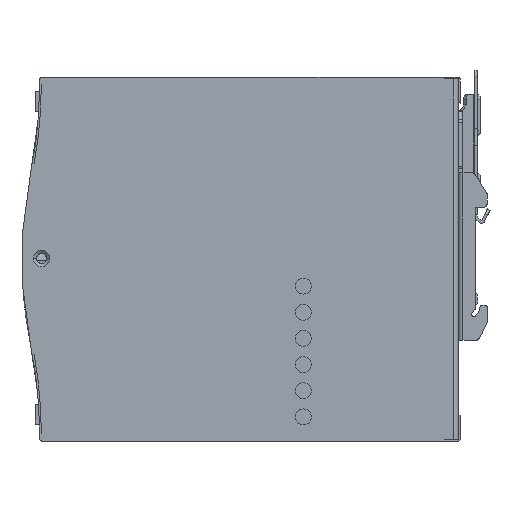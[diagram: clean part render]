
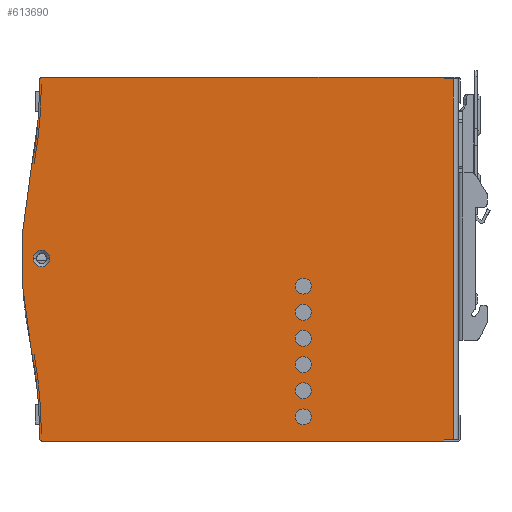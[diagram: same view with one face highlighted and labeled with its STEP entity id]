
A CAD part, front view. The second image highlights one B-rep face of the part: STEP entity #613690.
In plain terms, the highlighted planar face has unit normal (0, -1, 0).
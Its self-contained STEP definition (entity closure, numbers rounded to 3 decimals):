
#280010=CARTESIAN_POINT('',(-22.289,13.236,
-50.6));
#280020=VERTEX_POINT('',#280010);
#280050=CARTESIAN_POINT('',(115.92,13.236,-50.6
));
#280060=DIRECTION('',(-1.,0.,0.));
#280070=VECTOR('',#280060,1.);
#280080=LINE('',#280050,#280070);
#280090=CARTESIAN_POINT('',(115.92,13.236,
-50.6));
#280100=VERTEX_POINT('',#280090);
#280110=EDGE_CURVE('',#280100,#280020,#280080,.T.);
#610900=CARTESIAN_POINT('',(115.92,13.236,-50.));
#610910=DIRECTION('',(1.,0.,0.));
#610920=VECTOR('',#610910,1.);
#610930=LINE('',#610900,#610920);
#610940=CARTESIAN_POINT('',(115.92,13.236,-50.));
#610950=VERTEX_POINT('',#610940);
#610960=CARTESIAN_POINT('',(119.053,13.236,-50.));
#610970=VERTEX_POINT('',#610960);
#610980=EDGE_CURVE('',#610950,#610970,#610930,.T.);
#611640=CARTESIAN_POINT('',(115.92,13.236,-50.6
));
#611650=DIRECTION('',(0.,0.,1.));
#611660=VECTOR('',#611650,1.);
#611670=LINE('',#611640,#611660);
#611680=EDGE_CURVE('',#280100,#610950,#611670,.T.);
#611730=CARTESIAN_POINT('',(-13.667,13.236,0.));
#611740=DIRECTION('',(0.,-1.,0.));
#611750=DIRECTION('',(0.,0.,-1.));
#611760=AXIS2_PLACEMENT_3D('',#611730,#611740,#611750);
#611770=PLANE('',#611760);
#611780=CARTESIAN_POINT('',(115.92,13.236,74.));
#611790=DIRECTION('',(1.,0.,0.));
#611800=VECTOR('',#611790,1.);
#611810=LINE('',#611780,#611800);
#611820=CARTESIAN_POINT('',(115.92,13.236,74.));
#611830=VERTEX_POINT('',#611820);
#611840=CARTESIAN_POINT('',(119.053,13.236,74.));
#611850=VERTEX_POINT('',#611840);
#611860=EDGE_CURVE('',#611830,#611850,#611810,.T.);
#611870=ORIENTED_EDGE('',*,*,#611860,.F.);
#611880=CARTESIAN_POINT('',(119.053,13.236,74.));
#611890=DIRECTION('',(0.,0.,-1.));
#611900=VECTOR('',#611890,1.);
#611910=LINE('',#611880,#611900);
#611920=EDGE_CURVE('',#611850,#610970,#611910,.T.);
#611930=ORIENTED_EDGE('',*,*,#611920,.F.);
#611940=ORIENTED_EDGE('',*,*,#610980,.T.);
#611950=ORIENTED_EDGE('',*,*,#611680,.T.);
#611960=ORIENTED_EDGE('',*,*,#280110,.F.);
#611970=CARTESIAN_POINT('',(-23.289,13.236,
-49.595));
#611980=CARTESIAN_POINT('',(-23.291,13.236,-49.737
));
#611990=CARTESIAN_POINT('',(-23.234,13.236,
-49.995));
#612000=CARTESIAN_POINT('',(-23.015,13.236,
-50.325));
#612010=CARTESIAN_POINT('',(-22.683,13.236,
-50.546));
#612020=CARTESIAN_POINT('',(-22.428,13.236,
-50.6));
#612030=CARTESIAN_POINT('',(-22.289,13.236,
-50.6));
#612040=B_SPLINE_CURVE_WITH_KNOTS('',3,(#611970,#611980,#611990,#612000,
#612010,#612020,#612030),.UNSPECIFIED.,.F.,.F.,(4,1,1,1,4),(0.,0.25,0.5,
0.75,1.),.UNSPECIFIED.);
#612050=CARTESIAN_POINT('',(-23.289,13.236,
-49.593));
#612060=VERTEX_POINT('',#612050);
#612070=EDGE_CURVE('',#612060,#280020,#612040,.T.);
#612080=ORIENTED_EDGE('',*,*,#612070,.T.);
#612090=CARTESIAN_POINT('',(-173.696,13.236,
-48.111));
#612100=DIRECTION('',(-0.,1.,0.));
#612110=DIRECTION('',(0.98,0.,0.199));
#612120=AXIS2_PLACEMENT_3D('',#612090,#612100,#612110);
#612130=CIRCLE('',#612120,150.414);
#612140=CARTESIAN_POINT('',(-26.304,13.236,
-18.11));
#612150=VERTEX_POINT('',#612140);
#612160=EDGE_CURVE('',#612150,#612060,#612130,.T.);
#612170=ORIENTED_EDGE('',*,*,#612160,.T.);
#612180=CARTESIAN_POINT('',(121.153,13.236,
12.));
#612190=DIRECTION('',(0.,-1.,0.));
#612200=DIRECTION('',(-0.98,0.,0.2));
#612210=AXIS2_PLACEMENT_3D('',#612180,#612190,#612200);
#612220=CIRCLE('',#612210,150.5);
#612230=CARTESIAN_POINT('',(-26.304,13.236,42.11
));
#612240=VERTEX_POINT('',#612230);
#612250=EDGE_CURVE('',#612240,#612150,#612220,.T.);
#612260=ORIENTED_EDGE('',*,*,#612250,.T.);
#612270=CARTESIAN_POINT('',(-173.696,13.236,
72.111));
#612280=DIRECTION('',(-0.,1.,0.));
#612290=DIRECTION('',(1.,0.,0.01));
#612300=AXIS2_PLACEMENT_3D('',#612270,#612280,#612290);
#612310=CIRCLE('',#612300,150.414);
#612320=CARTESIAN_POINT('',(-23.289,13.236,73.593
));
#612330=VERTEX_POINT('',#612320);
#612340=EDGE_CURVE('',#612330,#612240,#612310,.T.);
#612350=ORIENTED_EDGE('',*,*,#612340,.T.);
#612360=CARTESIAN_POINT('',(-22.294,13.236,74.6
));
#612370=CARTESIAN_POINT('',(-22.433,13.236,74.6)
);
#612380=CARTESIAN_POINT('',(-22.688,13.236,74.543
));
#612390=CARTESIAN_POINT('',(-23.019,13.236,74.322
));
#612400=CARTESIAN_POINT('',(-23.237,13.236,73.989
));
#612410=CARTESIAN_POINT('',(-23.29,13.236,73.735
));
#612420=CARTESIAN_POINT('',(-23.289,13.236,73.596
));
#612430=B_SPLINE_CURVE_WITH_KNOTS('',3,(#612360,#612370,#612380,#612390,
#612400,#612410,#612420),.UNSPECIFIED.,.F.,.F.,(4,1,1,1,4),(0.,0.25,0.5,
0.75,1.),.UNSPECIFIED.);
#612440=CARTESIAN_POINT('',(-22.292,13.236,74.6
));
#612450=VERTEX_POINT('',#612440);
#612460=EDGE_CURVE('',#612450,#612330,#612430,.T.);
#612470=ORIENTED_EDGE('',*,*,#612460,.T.);
#612480=CARTESIAN_POINT('',(-22.289,13.236,74.6
));
#612490=DIRECTION('',(1.,0.,0.));
#612500=VECTOR('',#612490,1.);
#612510=LINE('',#612480,#612500);
#612520=CARTESIAN_POINT('',(115.92,13.236,
74.6));
#612530=VERTEX_POINT('',#612520);
#612540=EDGE_CURVE('',#612450,#612530,#612510,.T.);
#612550=ORIENTED_EDGE('',*,*,#612540,.F.);
#612560=CARTESIAN_POINT('',(115.92,13.236,74.));
#612570=DIRECTION('',(0.,0.,1.));
#612580=VECTOR('',#612570,1.);
#612590=LINE('',#612560,#612580);
#612600=EDGE_CURVE('',#611830,#612530,#612590,.T.);
#612610=ORIENTED_EDGE('',*,*,#612600,.T.);
#612620=EDGE_LOOP('',(#612610,#612550,#612470,#612350,#612260,#612170,
#612080,#611960,#611950,#611940,#611930,#611870));
#612630=FACE_OUTER_BOUND('',#612620,.T.);
#612640=CARTESIAN_POINT('',(-22.597,13.236,12.25)
);
#612650=DIRECTION('',(0.,1.,0.));
#612660=DIRECTION('',(-1.,0.,0.));
#612670=AXIS2_PLACEMENT_3D('',#612640,#612650,#612660);
#612680=CIRCLE('',#612670,2.85);
#612690=CARTESIAN_POINT('',(-25.447,13.236,12.25
));
#612700=VERTEX_POINT('',#612690);
#612710=CARTESIAN_POINT('',(-19.747,13.236,12.25
));
#612720=VERTEX_POINT('',#612710);
#612730=EDGE_CURVE('',#612700,#612720,#612680,.T.);
#612740=ORIENTED_EDGE('',*,*,#612730,.T.);
#612750=EDGE_CURVE('',#612720,#612700,#612680,.T.);
#612760=ORIENTED_EDGE('',*,*,#612750,.T.);
#612770=EDGE_LOOP('',(#612760,#612740));
#612780=FACE_BOUND('',#612770,.T.);
#612790=CARTESIAN_POINT('',(67.403,13.236,2.75));
#612800=DIRECTION('',(-0.,1.,0.));
#612810=DIRECTION('',(1.,0.,0.));
#612820=AXIS2_PLACEMENT_3D('',#612790,#612800,#612810);
#612830=CIRCLE('',#612820,2.75);
#612840=CARTESIAN_POINT('',(70.153,13.236,2.75));
#612850=VERTEX_POINT('',#612840);
#612860=CARTESIAN_POINT('',(64.653,13.236,2.75));
#612870=VERTEX_POINT('',#612860);
#612880=EDGE_CURVE('',#612850,#612870,#612830,.T.);
#612890=ORIENTED_EDGE('',*,*,#612880,.T.);
#612900=EDGE_CURVE('',#612870,#612850,#612830,.T.);
#612910=ORIENTED_EDGE('',*,*,#612900,.T.);
#612920=EDGE_LOOP('',(#612910,#612890));
#612930=FACE_BOUND('',#612920,.T.);
#612940=CARTESIAN_POINT('',(67.403,13.236,-6.25));
#612950=DIRECTION('',(-0.,1.,0.));
#612960=DIRECTION('',(1.,0.,0.));
#612970=AXIS2_PLACEMENT_3D('',#612940,#612950,#612960);
#612980=CIRCLE('',#612970,2.75);
#612990=CARTESIAN_POINT('',(64.653,13.236,-6.25));
#613000=VERTEX_POINT('',#612990);
#613010=CARTESIAN_POINT('',(70.153,13.236,-6.25));
#613020=VERTEX_POINT('',#613010);
#613030=EDGE_CURVE('',#613000,#613020,#612980,.T.);
#613040=ORIENTED_EDGE('',*,*,#613030,.T.);
#613050=EDGE_CURVE('',#613020,#613000,#612980,.T.);
#613060=ORIENTED_EDGE('',*,*,#613050,.T.);
#613070=EDGE_LOOP('',(#613060,#613040));
#613080=FACE_BOUND('',#613070,.T.);
#613090=CARTESIAN_POINT('',(67.403,13.236,-15.25));
#613100=DIRECTION('',(-0.,1.,0.));
#613110=DIRECTION('',(1.,0.,0.));
#613120=AXIS2_PLACEMENT_3D('',#613090,#613100,#613110);
#613130=CIRCLE('',#613120,2.75);
#613140=CARTESIAN_POINT('',(70.153,13.236,-15.25));
#613150=VERTEX_POINT('',#613140);
#613160=CARTESIAN_POINT('',(64.653,13.236,-15.25));
#613170=VERTEX_POINT('',#613160);
#613180=EDGE_CURVE('',#613150,#613170,#613130,.T.);
#613190=ORIENTED_EDGE('',*,*,#613180,.T.);
#613200=EDGE_CURVE('',#613170,#613150,#613130,.T.);
#613210=ORIENTED_EDGE('',*,*,#613200,.T.);
#613220=EDGE_LOOP('',(#613210,#613190));
#613230=FACE_BOUND('',#613220,.T.);
#613240=CARTESIAN_POINT('',(67.403,13.236,-33.25));
#613250=DIRECTION('',(-0.,1.,0.));
#613260=DIRECTION('',(1.,0.,0.));
#613270=AXIS2_PLACEMENT_3D('',#613240,#613250,#613260);
#613280=CIRCLE('',#613270,2.75);
#613290=CARTESIAN_POINT('',(70.153,13.236,-33.25));
#613300=VERTEX_POINT('',#613290);
#613310=CARTESIAN_POINT('',(64.653,13.236,-33.25));
#613320=VERTEX_POINT('',#613310);
#613330=EDGE_CURVE('',#613300,#613320,#613280,.T.);
#613340=ORIENTED_EDGE('',*,*,#613330,.T.);
#613350=EDGE_CURVE('',#613320,#613300,#613280,.T.);
#613360=ORIENTED_EDGE('',*,*,#613350,.T.);
#613370=EDGE_LOOP('',(#613360,#613340));
#613380=FACE_BOUND('',#613370,.T.);
#613390=CARTESIAN_POINT('',(67.403,13.236,-24.25));
#613400=DIRECTION('',(-0.,1.,0.));
#613410=DIRECTION('',(1.,0.,0.));
#613420=AXIS2_PLACEMENT_3D('',#613390,#613400,#613410);
#613430=CIRCLE('',#613420,2.75);
#613440=CARTESIAN_POINT('',(64.653,13.236,-24.25));
#613450=VERTEX_POINT('',#613440);
#613460=CARTESIAN_POINT('',(70.153,13.236,-24.25));
#613470=VERTEX_POINT('',#613460);
#613480=EDGE_CURVE('',#613450,#613470,#613430,.T.);
#613490=ORIENTED_EDGE('',*,*,#613480,.T.);
#613500=EDGE_CURVE('',#613470,#613450,#613430,.T.);
#613510=ORIENTED_EDGE('',*,*,#613500,.T.);
#613520=EDGE_LOOP('',(#613510,#613490));
#613530=FACE_BOUND('',#613520,.T.);
#613540=CARTESIAN_POINT('',(67.403,13.236,-42.25));
#613550=DIRECTION('',(-0.,1.,0.));
#613560=DIRECTION('',(1.,0.,0.));
#613570=AXIS2_PLACEMENT_3D('',#613540,#613550,#613560);
#613580=CIRCLE('',#613570,2.75);
#613590=CARTESIAN_POINT('',(70.153,13.236,-42.25));
#613600=VERTEX_POINT('',#613590);
#613610=CARTESIAN_POINT('',(64.653,13.236,-42.25));
#613620=VERTEX_POINT('',#613610);
#613630=EDGE_CURVE('',#613600,#613620,#613580,.T.);
#613640=ORIENTED_EDGE('',*,*,#613630,.T.);
#613650=EDGE_CURVE('',#613620,#613600,#613580,.T.);
#613660=ORIENTED_EDGE('',*,*,#613650,.T.);
#613670=EDGE_LOOP('',(#613660,#613640));
#613680=FACE_BOUND('',#613670,.T.);
#613690=ADVANCED_FACE('',(#612630,#612780,#612930,#613080,#613230,
#613380,#613530,#613680),#611770,.T.);
